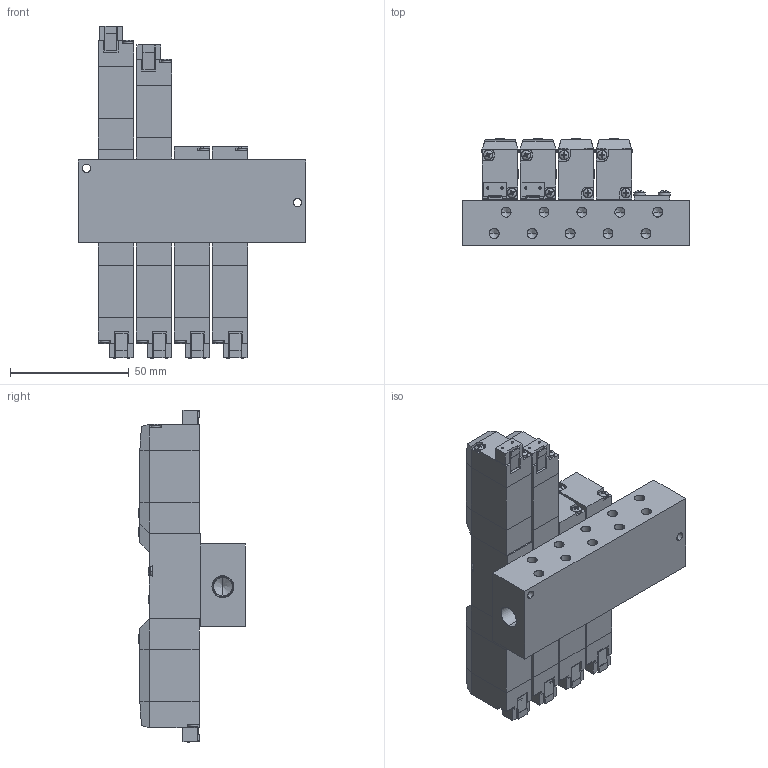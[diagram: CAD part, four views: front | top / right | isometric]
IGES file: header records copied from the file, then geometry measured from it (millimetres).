
Start section: SolidWorks IGES file using analytic representation for surfaces
Global section: file name: D:\Custom\3D繪製\PC\PC5\MFS#-PD5-M5-SP.IGS,1; native system: 5HSolidWorks 2014; preprocessor: SolidWorks 2014; author: Chieh_Lu; date: 150729.231604; units: millimetre
Bounding box: 96 x 45 x 140 mm (x, y, z)
Surface area: 77514.7 mm2 (no closed solid volume)
Topology: 0 solids, 0 shells, 2353 faces, 19742 edges, 19640 vertices
Faces by surface type: bspline 1581, revolution 772
